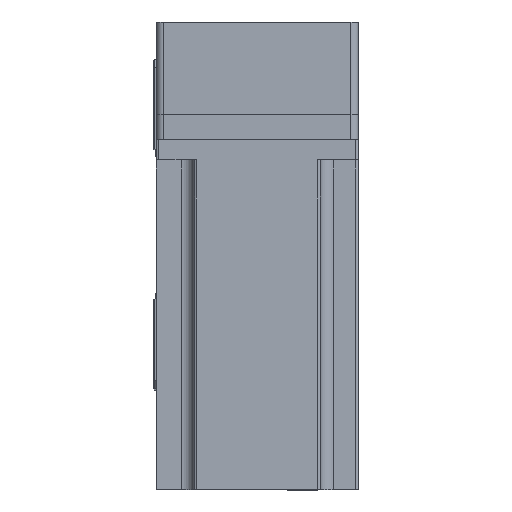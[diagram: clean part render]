
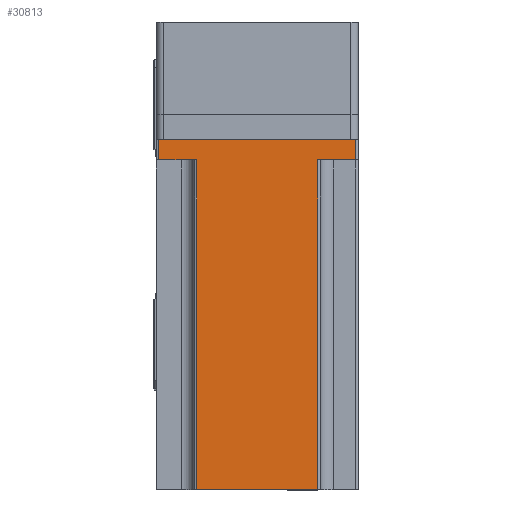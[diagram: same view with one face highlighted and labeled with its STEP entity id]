
A CAD part, top view. The second image highlights one B-rep face of the part: STEP entity #30813.
In plain terms, the highlighted planar face has unit normal (0, 0, 1) as drawn and (0, 1, 0) by its records, which use the part's own axes.
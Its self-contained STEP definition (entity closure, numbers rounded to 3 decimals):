
#1582 = CARTESIAN_POINT ( 'NONE',  ( 39., 40., 138.3 ) ) ;
#1637 = EDGE_LOOP ( 'NONE', ( #10860, #6460, #22885, #12769, #30487, #35694, #34536, #32505 ) ) ;
#2773 = LINE ( 'NONE', #5174, #19382 ) ;
#2805 = DIRECTION ( 'NONE',  ( -1., 0., 0. ) ) ;
#3727 = EDGE_CURVE ( 'NONE', #4353, #23140, #18427, .T. ) ;
#4353 = VERTEX_POINT ( 'NONE', #42379 ) ;
#4872 = CARTESIAN_POINT ( 'NONE',  ( 25., 40., 8. ) ) ;
#5174 = CARTESIAN_POINT ( 'NONE',  ( -25., 40., 8. ) ) ;
#6460 = ORIENTED_EDGE ( 'NONE', *, *, #9335, .T. ) ;
#7190 = VECTOR ( 'NONE', #34585, 1000. ) ;
#9335 = EDGE_CURVE ( 'NONE', #39815, #27481, #24879, .T. ) ;
#9615 = VECTOR ( 'NONE', #38476, 1000. ) ;
#10750 = CARTESIAN_POINT ( 'NONE',  ( -39., 40., 138.3 ) ) ;
#10860 = ORIENTED_EDGE ( 'NONE', *, *, #39179, .T. ) ;
#11272 = VECTOR ( 'NONE', #30634, 1000. ) ;
#12306 = LINE ( 'NONE', #10750, #11272 ) ;
#12498 = VECTOR ( 'NONE', #28208, 1000. ) ;
#12769 = ORIENTED_EDGE ( 'NONE', *, *, #21143, .T. ) ;
#12805 = CARTESIAN_POINT ( 'NONE',  ( -24., 40., 138.3 ) ) ;
#12846 = CARTESIAN_POINT ( 'NONE',  ( 24., 40., 138.3 ) ) ;
#14321 = CARTESIAN_POINT ( 'NONE',  ( 39., 40., 8. ) ) ;
#14420 = DIRECTION ( 'NONE',  ( 0., -1., 0. ) ) ;
#14445 = CARTESIAN_POINT ( 'NONE',  ( -24., 40., 138.3 ) ) ;
#15113 = VECTOR ( 'NONE', #39706, 1000. ) ;
#15686 = LINE ( 'NONE', #26074, #41286 ) ;
#18427 = LINE ( 'NONE', #41715, #9615 ) ;
#19382 = VECTOR ( 'NONE', #28443, 1000. ) ;
#21074 = CARTESIAN_POINT ( 'NONE',  ( -39., 40., 8. ) ) ;
#21143 = EDGE_CURVE ( 'NONE', #35117, #23499, #23948, .T. ) ;
#22178 = CARTESIAN_POINT ( 'NONE',  ( 24., 40., 8. ) ) ;
#22885 = ORIENTED_EDGE ( 'NONE', *, *, #34540, .F. ) ;
#23140 = VERTEX_POINT ( 'NONE', #29896 ) ;
#23499 = VERTEX_POINT ( 'NONE', #22178 ) ;
#23948 = LINE ( 'NONE', #12846, #15113 ) ;
#24806 = DIRECTION ( 'NONE',  ( -1., 0., 0. ) ) ;
#24879 = LINE ( 'NONE', #14445, #7190 ) ;
#25290 = LINE ( 'NONE', #4872, #34180 ) ;
#26074 = CARTESIAN_POINT ( 'NONE',  ( 40., 40., 138.3 ) ) ;
#27481 = VERTEX_POINT ( 'NONE', #12805 ) ;
#28208 = DIRECTION ( 'NONE',  ( 0., 0., -1. ) ) ;
#28443 = DIRECTION ( 'NONE',  ( 1., 0., 0. ) ) ;
#29377 = FACE_OUTER_BOUND ( 'NONE', #1637, .T. ) ;
#29896 = CARTESIAN_POINT ( 'NONE',  ( -39., 40., 0. ) ) ;
#30158 = LINE ( 'NONE', #1582, #12498 ) ;
#30337 = EDGE_CURVE ( 'NONE', #42559, #23499, #25290, .T. ) ;
#30487 = ORIENTED_EDGE ( 'NONE', *, *, #30337, .F. ) ;
#30634 = DIRECTION ( 'NONE',  ( 0., 0., 1. ) ) ;
#30813 = ADVANCED_FACE ( 'NONE', ( #29377 ), #37634, .F. ) ;
#31463 = VERTEX_POINT ( 'NONE', #21074 ) ;
#32505 = ORIENTED_EDGE ( 'NONE', *, *, #37244, .T. ) ;
#34180 = VECTOR ( 'NONE', #24806, 1000. ) ;
#34411 = CARTESIAN_POINT ( 'NONE',  ( 40., 40., 138.3 ) ) ;
#34536 = ORIENTED_EDGE ( 'NONE', *, *, #3727, .T. ) ;
#34540 = EDGE_CURVE ( 'NONE', #35117, #27481, #15686, .T. ) ;
#34585 = DIRECTION ( 'NONE',  ( 0., 0., 1. ) ) ;
#34934 = EDGE_CURVE ( 'NONE', #42559, #4353, #30158, .T. ) ;
#35117 = VERTEX_POINT ( 'NONE', #36265 ) ;
#35694 = ORIENTED_EDGE ( 'NONE', *, *, #34934, .T. ) ;
#36265 = CARTESIAN_POINT ( 'NONE',  ( 24., 40., 138.3 ) ) ;
#37244 = EDGE_CURVE ( 'NONE', #23140, #31463, #12306, .T. ) ;
#37634 = PLANE ( 'NONE',  #40646 ) ;
#37776 = DIRECTION ( 'NONE',  ( 1., 0., 0. ) ) ;
#38476 = DIRECTION ( 'NONE',  ( -1., 0., 0. ) ) ;
#39179 = EDGE_CURVE ( 'NONE', #31463, #39815, #2773, .T. ) ;
#39247 = CARTESIAN_POINT ( 'NONE',  ( -24., 40., 8. ) ) ;
#39706 = DIRECTION ( 'NONE',  ( 0., 0., -1. ) ) ;
#39815 = VERTEX_POINT ( 'NONE', #39247 ) ;
#40646 = AXIS2_PLACEMENT_3D ( 'NONE', #34411, #14420, #37776 ) ;
#41286 = VECTOR ( 'NONE', #2805, 1000. ) ;
#41715 = CARTESIAN_POINT ( 'NONE',  ( 40., 40., 0. ) ) ;
#42379 = CARTESIAN_POINT ( 'NONE',  ( 39., 40., 0. ) ) ;
#42559 = VERTEX_POINT ( 'NONE', #14321 ) ;
